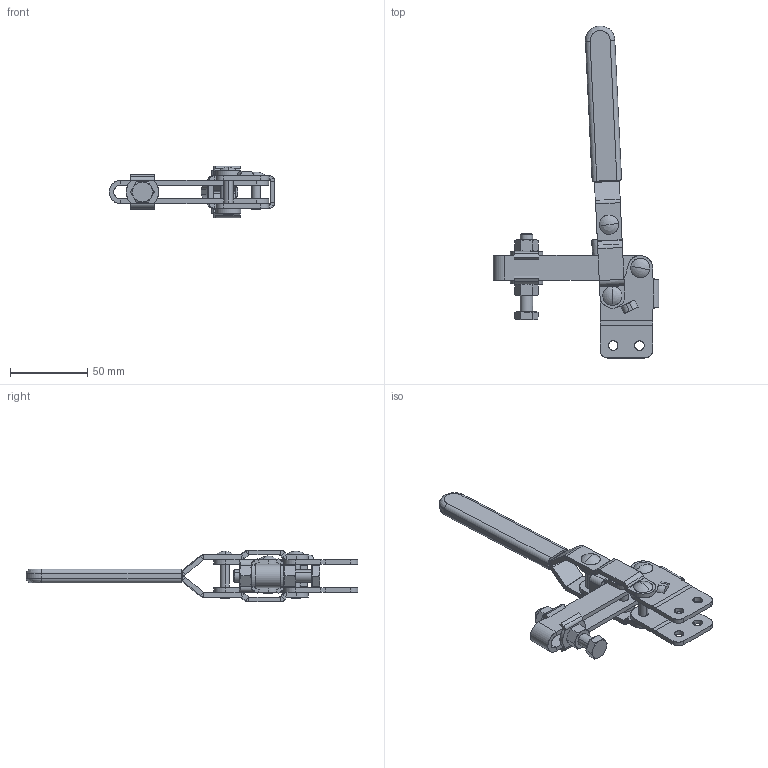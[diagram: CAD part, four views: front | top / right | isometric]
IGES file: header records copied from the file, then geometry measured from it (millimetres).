
Start section: SolidWorks IGES file using analytic representation for surfaces
Global section: file name: \\BARTOP_SV6\share\SOLIDWORKS\工具事業部\坂入用\受け渡し\ISK-41BS小0.IGS; native system: SolidWorks 2015; preprocessor: SolidWorks 2015; author: SOLID02; date: 150629.185012; units: millimetre
Bounding box: 107.02 x 214.45 x 33.2 mm (x, y, z)
Surface area: 52356.6 mm2 (no closed solid volume)
Topology: 0 solids, 0 shells, 473 faces, 5670 edges, 5658 vertices
Faces by surface type: bspline 259, revolution 214
